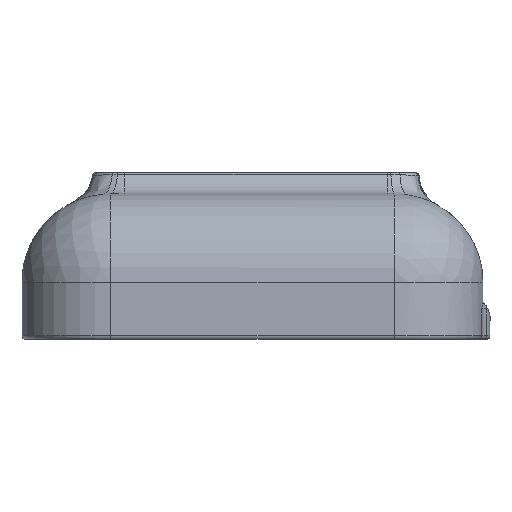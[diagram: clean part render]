
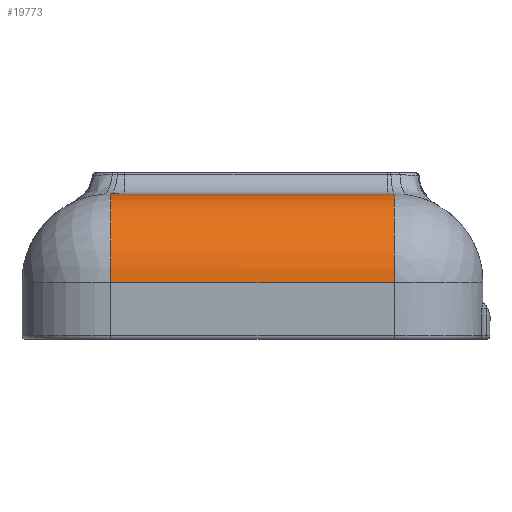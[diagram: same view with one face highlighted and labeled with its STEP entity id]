
A CAD part, left-side view. The second image highlights one B-rep face of the part: STEP entity #19773.
In plain terms, the highlighted cylindrical face has radius 12.5 mm (diameter 25 mm), a partial arc.
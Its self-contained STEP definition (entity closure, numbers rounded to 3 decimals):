
#1180=B_SPLINE_CURVE_WITH_KNOTS('',3,(#31629,#31630,#31631,#31632),
 .UNSPECIFIED.,.F.,.F.,(4,4),(-2.76,-2.56),
 .UNSPECIFIED.);
#3217=FACE_OUTER_BOUND('',#4502,.T.);
#4502=EDGE_LOOP('',(#18150,#18151,#18152,#18153,#18154,#18155));
#4719=LINE('',#31606,#5977);
#5652=LINE('',#59454,#6910);
#5977=VECTOR('',#22017,5.);
#6910=VECTOR('',#24674,10.);
#7297=CIRCLE('',#20159,12.491);
#7316=CIRCLE('',#20185,12.5);
#7697=CIRCLE('',#21086,12.5);
#8436=VERTEX_POINT('',#31574);
#8437=VERTEX_POINT('',#31600);
#8438=VERTEX_POINT('',#31604);
#8439=VERTEX_POINT('',#31627);
#8452=VERTEX_POINT('',#31897);
#8516=VERTEX_POINT('',#32137);
#10350=EDGE_CURVE('',#8437,#8436,#7297,.T.);
#10352=EDGE_CURVE('',#8438,#8437,#4719,.T.);
#10354=EDGE_CURVE('',#8439,#8438,#1180,.T.);
#10382=EDGE_CURVE('',#8439,#8452,#7316,.F.);
#12248=EDGE_CURVE('',#8452,#8516,#5652,.T.);
#12298=EDGE_CURVE('',#8516,#8436,#7697,.F.);
#18150=ORIENTED_EDGE('',*,*,#10354,.F.);
#18151=ORIENTED_EDGE('',*,*,#10382,.T.);
#18152=ORIENTED_EDGE('',*,*,#12248,.T.);
#18153=ORIENTED_EDGE('',*,*,#12298,.T.);
#18154=ORIENTED_EDGE('',*,*,#10350,.F.);
#18155=ORIENTED_EDGE('',*,*,#10352,.F.);
#18672=CYLINDRICAL_SURFACE('',#21163,12.5);
#19773=ADVANCED_FACE('',(#3217),#18672,.T.);
#20159=AXIS2_PLACEMENT_3D('',#31602,#22011,#22012);
#20185=AXIS2_PLACEMENT_3D('',#31899,#22067,#22068);
#21086=AXIS2_PLACEMENT_3D('',#59565,#24820,#24821);
#21163=AXIS2_PLACEMENT_3D('',#60196,#25033,#25034);
#22011=DIRECTION('center_axis',(-0.036,0.,
0.999));
#22012=DIRECTION('ref_axis',(-0.996,-0.08,-0.036));
#22017=DIRECTION('',(0.,-1.,0.));
#22067=DIRECTION('center_axis',(0.,1.,0.));
#22068=DIRECTION('ref_axis',(0.,0.,1.));
#24674=DIRECTION('',(0.,-1.,0.));
#24820=DIRECTION('center_axis',(0.,-1.,0.));
#24821=DIRECTION('ref_axis',(-1.,0.,0.));
#25033=DIRECTION('center_axis',(0.,-1.,0.));
#25034=DIRECTION('ref_axis',(-0.707,0.,0.707));
#31574=CARTESIAN_POINT('',(-16.952,12.5,21.992));
#31600=CARTESIAN_POINT('',(-16.992,13.5,21.99));
#31602=CARTESIAN_POINT('Origin',(-4.509,13.5,22.442));
#31604=CARTESIAN_POINT('',(-16.992,50.5,21.99));
#31606=CARTESIAN_POINT('',(-16.992,13.5,21.99));
#31627=CARTESIAN_POINT('',(-16.83,52.5,21.996));
#31629=CARTESIAN_POINT('Ctrl Pts',(-16.83,52.5,21.996));
#31630=CARTESIAN_POINT('Ctrl Pts',(-16.936,51.849,21.993));
#31631=CARTESIAN_POINT('Ctrl Pts',(-16.992,51.174,21.99));
#31632=CARTESIAN_POINT('Ctrl Pts',(-16.992,50.5,21.99));
#31897=CARTESIAN_POINT('',(-29.,52.5,9.5));
#31899=CARTESIAN_POINT('Origin',(-16.5,52.5,9.5));
#32137=CARTESIAN_POINT('',(-29.,12.5,9.5));
#59454=CARTESIAN_POINT('',(-29.,0.,9.5));
#59565=CARTESIAN_POINT('Origin',(-16.5,12.5,9.5));
#60196=CARTESIAN_POINT('Origin',(-16.5,0.,9.5));
